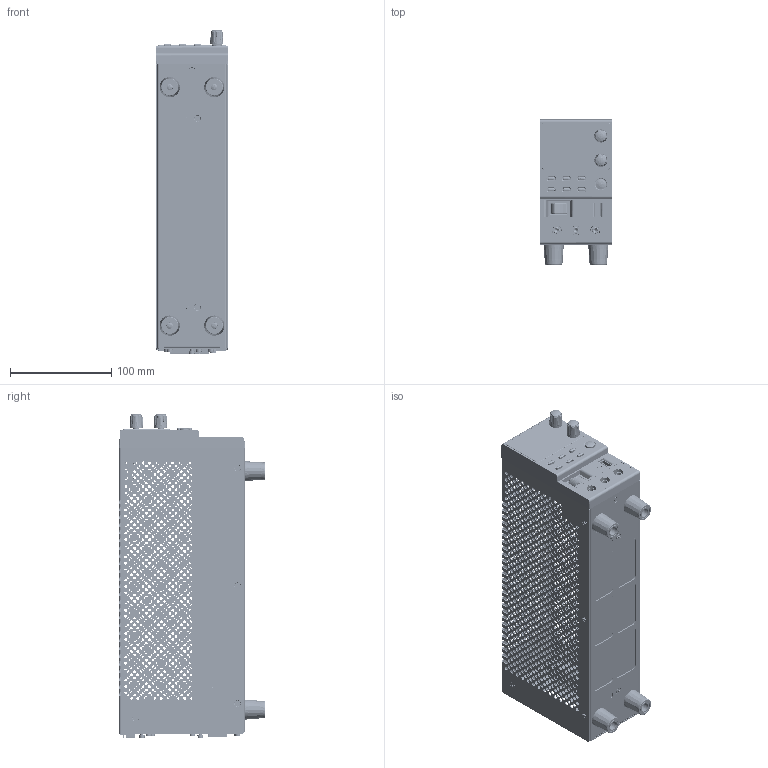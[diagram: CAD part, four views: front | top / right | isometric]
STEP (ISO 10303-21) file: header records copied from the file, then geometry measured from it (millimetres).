
FILE_DESCRIPTION((''),'2;1');
FILE_NAME('PFR-100M_ASM','2020-03-11T11:28:00',('jeffery_kuo'),(''),'CREO PARAMETRIC BY PTC INC, 2019080','CREO PARAMETRIC BY PTC INC, 2019080','');
FILE_SCHEMA(('CONFIG_CONTROL_DESIGN'));
Products named in the file (77): PFR-100_ASM_SKEL0001_32; PFR-100-F-1_ASM_SKEL0001_24; 63FP-AG1129A1_137; INSERT-CU_2; 63FP-AG1129A1_ASM_50_ASM; 51FR-100L0101_35; 51FR-100L0301_37; 62SW-080FP201_116; PSW-F-PCB_1; TACT_SWITCH_TC002_8; DISPLAY_14; ENCODE_SW_L25-ALPS_8; LED-6X4_DIP_5; BOARD-IN-CONNECTOR-8PIN_17; PSW-F-PCB_ASM_ASM_1_ASM; 51SW-804002A1_122; 63KE-XG2001A1_268; PFR-100-SW-POWER_6; BINDING-PCB-A_58; BINDING-PCB_ASM-A_ASM_20_ASM; 5005-130G0101_32; 66CN-04650001_15; WASHER-FLAT-4MM_3; NUT-M4_9; 44BJ-21100601-BANANA_4; 44BJ-211004A_RED_2; 44BJ-21100601_ASM_3_ASM; 44BJ-51100201_GREEN_1; 44BJ-51100201_ASM_2_ASM; 44BJ-01100701_BLACK_2; 44BJ-01100701_ASM_2_ASM; 51FR-100LXXXX_2; PFR-100-F-1_ASM_ASM_167_ASM; PFR-100-FP-1_ASM_SKEL0001_24; 62FR-100FP101_147; 62FR-100FP101_ASM_37_ASM; FRP10_13; PFR-100-FP-1_ASM_ASM_46_ASM; PMS-3X4_8; BMS-W-3X6_11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
Assembly tree (150 placements, depth 5):
  PFR-100M_ASM
    PFR-100_ASM_ASM_1250_ASM
      PFR-100_ASM_SKEL0001_32
      PFR-100-F-1_ASM_ASM_167_ASM
        PFR-100-F-1_ASM_SKEL0001_24
        63FP-AG1129A1_ASM_50_ASM
          63FP-AG1129A1_137
          INSERT-CU_2  x2
        51FR-100L0101_35
        51FR-100L0301_37
        62SW-080FP201_116
        PSW-F-PCB_ASM_ASM_1_ASM
          PSW-F-PCB_1
          TACT_SWITCH_TC002_8  x7
          DISPLAY_14  x8
          ENCODE_SW_L25-ALPS_8  x2
          LED-6X4_DIP_5  x17
          BOARD-IN-CONNECTOR-8PIN_17
        51SW-804002A1_122
        63KE-XG2001A1_268
        PFR-100-SW-POWER_6
        BINDING-PCB_ASM-A_ASM_20_ASM
          BINDING-PCB-A_58
        5005-130G0101_32  x2
        66CN-04650001_15
        WASHER-FLAT-4MM_3  x3
        NUT-M4_9  x3
        44BJ-21100601_ASM_3_ASM
          44BJ-21100601-BANANA_4
          44BJ-211004A_RED_2
        44BJ-51100201_ASM_2_ASM
          44BJ-21100601-BANANA_4
          44BJ-51100201_GREEN_1
        44BJ-01100701_ASM_2_ASM
          44BJ-21100601-BANANA_4
          44BJ-01100701_BLACK_2
        51FR-100LXXXX_2
      PFR-100-FP-1_ASM_ASM_46_ASM
        PFR-100-FP-1_ASM_SKEL0001_24
        62FR-100FP101_ASM_37_ASM
          62FR-100FP101_147
        FRP10_13  x2
      PMS-3X4_8
      BMS-W-3X6_11
      BMS-3X6_12  x2
      PFR-100-LO-1_ASM_ASM_250_ASM
        PFR-100-LO-1_ASM_SKEL0001_85
        62FR-100HP101_ASM_45_ASM  x2
          62FR-100HP101_167
        PFR-100-CPU-PCB_ASM_ASM_162_ASM
          USB2_7
          62SW-080HP501_22
          MDSM-25PIN_12
          RJ-45_4445-2000101_16
          RJ-45_16
          USB_7
          19PSL-JE_9
        62FR-100LO101_ASM_56_ASM
          62FR-100LO101_211
          FH-M4-15_3
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Bounding box: 71 x 143.8 x 320.3 mm (x, y, z)
Volume: 218439.1 mm3; surface area: 392702.9 mm2
Topology: 125 solids, 125 shells, 13794 faces, 37463 edges, 24330 vertices
Faces by surface type: cylinder 6641, plane 5986, cone 716, bspline 189, torus 126, sphere 120, extrusion 16
Entity records: 362895 total; most frequent: CARTESIAN_POINT 70033, DIRECTION 63800, ORIENTED_EDGE 58186, EDGE_CURVE 29093, AXIS2_PLACEMENT_3D 24504, VERTEX_POINT 18955, EDGE_LOOP 15960, VECTOR 14792
